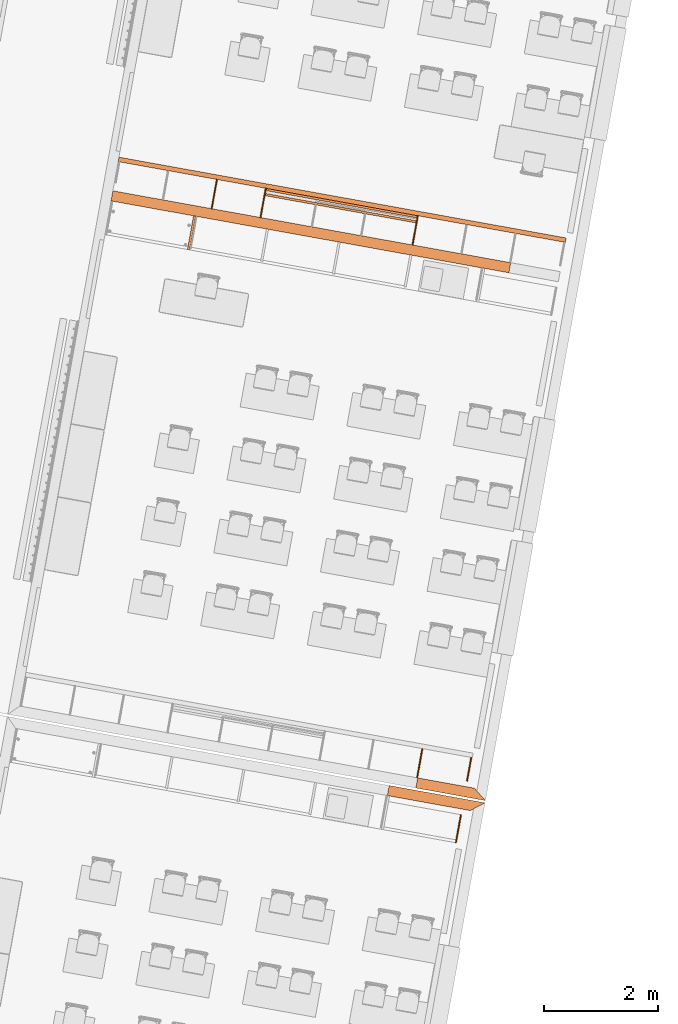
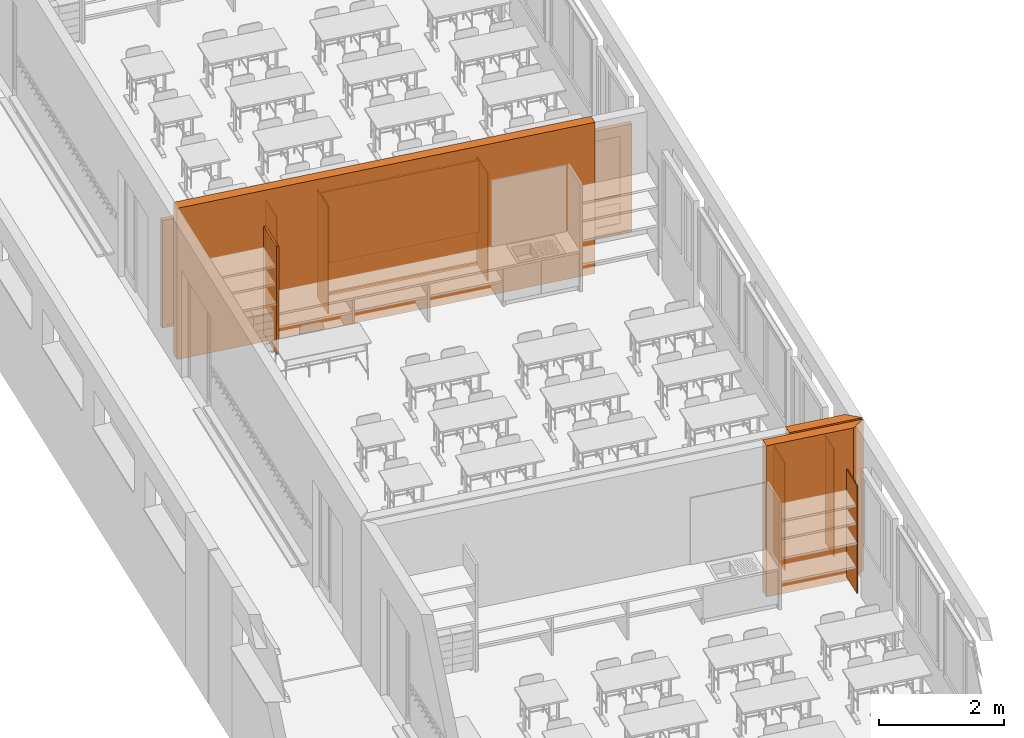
# One storey, part 44 of 79: 13 proxies.
"""IFC2X3 building model written with IfcOpenShell, lengths in metres."""

from ifc_helpers import new_model, entity, si_unit, converted_unit, derived_unit, money_unit, direction, frame, origin_with_axes, place, context, subcontext, project, spatial, polyline, outline, extrude, open_shell, faceted_brep, surface_model, source, transform, mapped, material, type_object, element, save


model = new_model("IFC2X3")

# Units and contexts
model_context = context("Model", 3, precision=1e-05, world=origin_with_axes(), true_north=direction((0.0, 1.0)))
body_context = subcontext(model_context, "Body", "Model", "MODEL_VIEW")
ifc_project = project(units=[si_unit("LENGTHUNIT", "METRE"), si_unit("AREAUNIT", "SQUARE_METRE"), si_unit("VOLUMEUNIT", "CUBIC_METRE"), converted_unit("PLANEANGLEUNIT", "DEGREE", entity("IfcPlaneAngleMeasure", 0.0174532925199), si_unit("PLANEANGLEUNIT", "RADIAN"), dimensions=[0, 0, 0, 0, 0, 0, 0]), money_unit("CHF"), converted_unit("TIMEUNIT", "Year", entity("IfcTimeMeasure", 31556926.0), si_unit("TIMEUNIT", "SECOND"), dimensions=[0, 0, 1, 0, 0, 0, 0]), si_unit("MASSUNIT", "GRAM", prefix="KILO"), si_unit("THERMODYNAMICTEMPERATUREUNIT", "DEGREE_CELSIUS"), si_unit("LUMINOUSINTENSITYUNIT", "LUMEN"), si_unit("ENERGYUNIT", "JOULE", prefix="MEGA"), derived_unit("THERMALCONDUCTANCEUNIT", [(si_unit("POWERUNIT", "WATT"), 1), (si_unit("LENGTHUNIT", "METRE"), -1), (si_unit("THERMODYNAMICTEMPERATUREUNIT", "KELVIN"), -1)]), derived_unit("SPECIFICHEATCAPACITYUNIT", [(si_unit("ENERGYUNIT", "JOULE"), 1), (si_unit("MASSUNIT", "GRAM", prefix="KILO"), -1), (si_unit("THERMODYNAMICTEMPERATUREUNIT", "KELVIN"), -1)]), derived_unit("MASSDENSITYUNIT", [(si_unit("MASSUNIT", "GRAM", prefix="KILO"), 1), (si_unit("VOLUMEUNIT", "CUBIC_METRE"), -1)])], contexts=[model_context])

# Site, building, storey
site_placement = place(None, frame((0.0, 0.0, 0.0), z_axis=(0.0, 0.0, 1.0), x_axis=(-0.177771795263, -0.984071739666, 0.0)))
site = spatial("IfcSite", under=ifc_project, at=site_placement, Name="Site", CompositionType="ELEMENT")
building_placement = place(site_placement, origin_with_axes())
building = spatial("IfcBuilding", under=site, at=building_placement, Name="Bâtiment", CompositionType="ELEMENT")
storey_placement = place(building_placement, origin_with_axes())
storey = spatial("IfcBuildingStorey", under=building, at=storey_placement, Name="RDC", CompositionType="ELEMENT", Elevation=0.0)

# Proxies
ifc_material_1 = material(Name="_BA banché RAL9007")
building_element_proxy_type_1 = type_object("IfcBuildingElementProxyType", Name="_BA banché RAL9007 180", PredefinedType="NOTDEFINED")
proxy_1_placement = place(storey_placement, frame((119.284841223, -156.627151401, -0.15), z_axis=(0.0, 0.0, 1.0), x_axis=(0.0, 1.0, 0.0)))
element("IfcBuildingElementProxy", 1, at=proxy_1_placement, inside=storey, type_object=building_element_proxy_type_1, material=ifc_material_1, Name="M refend", context=body_context, shape_type="SweptSolid", body=[
    extrude(outline(polyline([(0.180000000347, 0.0), (7.26900000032, 0.0), (7.26900000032, 0.18), (0.18000000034, 0.18), (0.180000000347, 0.0)])), origin_with_axes(), (0.0, 0.0, 1.0), 2.95),
])
ifc_material_2 = material(Name="Matériau de construction IFC")
building_element_proxy_type_2 = type_object("IfcBuildingElementProxyType", Name="porte-couliss-triple_JM2", PredefinedType="NOTDEFINED")
shared_shape = source(origin_with_axes(), body_context, "Body", "SurfaceModel", [
    surface_model("IfcShellBasedSurfaceModel", [(7.92, -0.0799999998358, 0.05), (7.92, -0.0799999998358, 2.05), (7.92, 1.64206426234e-10, 2.05), (7.92, 1.64206426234e-10, 0.05), (7.97, -0.0799999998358, 2.05), (7.97, -0.0799999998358, 0.05), (7.97, 1.64206426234e-10, 2.05), (7.97, 1.64206426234e-10, 0.05)], [open_shell([[[0, 1, 2, 3]], [[4, 1, 0, 5]], [[6, 7, 3, 2]]])]),
    surface_model("IfcShellBasedSurfaceModel", [(7.97, -0.0799999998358, 0.0), (7.97, -0.0799999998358, 2.1), (7.97, 1.64206426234e-10, 2.1), (7.97, 1.64206426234e-10, 0.0)], [open_shell([[[0, 1, 2, 3]]])]),
    surface_model("IfcShellBasedSurfaceModel", [(0.05, -0.0799999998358, 0.05), (7.92, -0.0799999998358, 0.05), (7.92, 1.64206426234e-10, 0.05), (0.05, 1.64206426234e-10, 0.05), (7.92, -0.0799999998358, 0.0), (0.05, -0.0799999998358, 0.0), (7.92, 1.64206426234e-10, 0.0), (0.05, 1.64206426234e-10, 0.0)], [open_shell([[[0, 1, 2, 3]], [[4, 1, 0, 5]], [[6, 7, 3, 2]]])]),
    surface_model("IfcShellBasedSurfaceModel", [(7.97, -0.0799999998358, 0.0), (0.0, -0.0799999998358, 0.0), (0.0, 1.64206426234e-10, 0.0), (7.97, 1.64206426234e-10, 0.0)], [open_shell([[[0, 1, 2, 3]]])]),
    surface_model("IfcShellBasedSurfaceModel", [(7.97, -0.0799999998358, 0.0), (7.97, -0.0799999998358, 0.05), (7.92, -0.0799999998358, 0.05), (7.92, -0.0799999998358, 0.0)], [open_shell([[[0, 1, 2, 3]]])]),
    surface_model("IfcShellBasedSurfaceModel", [(7.97, 1.64206426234e-10, 0.0), (7.97, 1.64206426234e-10, 0.05), (7.92, 1.64206426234e-10, 0.05), (7.92, 1.64206426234e-10, 0.0)], [open_shell([[[0, 1, 2, 3]]])]),
    surface_model("IfcShellBasedSurfaceModel", [(0.05, -0.0799999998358, 0.0), (0.05, -0.0799999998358, 0.05), (0.0, -0.0799999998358, 0.05), (0.0, -0.0799999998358, 0.0)], [open_shell([[[0, 1, 2, 3]]])]),
    surface_model("IfcShellBasedSurfaceModel", [(0.05, 1.64206426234e-10, 0.0), (0.05, 1.64206426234e-10, 0.05), (0.0, 1.64206426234e-10, 0.05), (0.0, 1.64206426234e-10, 0.0)], [open_shell([[[0, 1, 2, 3]]])]),
    surface_model("IfcShellBasedSurfaceModel", [(0.05, -0.0799999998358, 2.05), (0.05, -0.0799999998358, 0.05), (0.05, 1.64206426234e-10, 0.05), (0.05, 1.64206426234e-10, 2.05), (0.0, -0.0799999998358, 0.05), (0.0, -0.0799999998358, 2.05), (0.0, 1.64206426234e-10, 0.05), (0.0, 1.64206426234e-10, 2.05)], [open_shell([[[0, 1, 2, 3]], [[4, 1, 0, 5]], [[6, 7, 3, 2]]])]),
    surface_model("IfcShellBasedSurfaceModel", [(0.0, -0.0799999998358, 0.0), (0.0, -0.0799999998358, 2.1), (0.0, 1.64206426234e-10, 2.1), (0.0, 1.64206426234e-10, 0.0)], [open_shell([[[0, 1, 2, 3]]])]),
    surface_model("IfcShellBasedSurfaceModel", [(7.92, -0.0799999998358, 2.05), (0.05, -0.0799999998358, 2.05), (0.05, 1.64206426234e-10, 2.05), (7.92, 1.64206426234e-10, 2.05), (0.05, -0.0799999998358, 2.1), (7.92, -0.0799999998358, 2.1), (0.05, 1.64206426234e-10, 2.1), (7.92, 1.64206426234e-10, 2.1)], [open_shell([[[0, 1, 2, 3]], [[4, 1, 0, 5]], [[6, 7, 3, 2]]])]),
    surface_model("IfcShellBasedSurfaceModel", [(7.97, -0.0799999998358, 2.1), (0.0, -0.0799999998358, 2.1), (0.0, 1.64206426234e-10, 2.1), (7.97, 1.64206426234e-10, 2.1)], [open_shell([[[0, 1, 2, 3]]])]),
    surface_model("IfcShellBasedSurfaceModel", [(7.97, -0.0799999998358, 2.05), (7.97, -0.0799999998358, 2.1), (7.92, -0.0799999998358, 2.1), (7.92, -0.0799999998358, 2.05)], [open_shell([[[0, 1, 2, 3]]])]),
    surface_model("IfcShellBasedSurfaceModel", [(7.97, 1.64206426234e-10, 2.05), (7.97, 1.64206426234e-10, 2.1), (7.92, 1.64206426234e-10, 2.1), (7.92, 1.64206426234e-10, 2.05)], [open_shell([[[0, 1, 2, 3]]])]),
    surface_model("IfcShellBasedSurfaceModel", [(0.05, -0.0799999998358, 2.05), (0.05, -0.0799999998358, 2.1), (0.0, -0.0799999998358, 2.1), (0.0, -0.0799999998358, 2.05)], [open_shell([[[0, 1, 2, 3]]])]),
    surface_model("IfcShellBasedSurfaceModel", [(0.05, 1.64206426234e-10, 2.05), (0.05, 1.64206426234e-10, 2.1), (0.0, 1.64206426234e-10, 2.1), (0.0, 1.64206426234e-10, 2.05)], [open_shell([[[0, 1, 2, 3]]])]),
    surface_model("IfcShellBasedSurfaceModel", [(7.77, -0.0744999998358, 0.2), (7.77, -0.0744999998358, 1.9), (7.77, -0.00449999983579, 1.9), (7.77, -0.00449999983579, 0.2), (7.92, -0.0744999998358, 1.9), (7.92, -0.0744999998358, 0.2), (7.92, -0.00449999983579, 1.9), (7.92, -0.00449999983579, 0.2)], [open_shell([[[0, 1, 2, 3]], [[4, 1, 0, 5]], [[6, 7, 3, 2]]])]),
    surface_model("IfcShellBasedSurfaceModel", [(7.92, -0.0744999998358, 0.05), (7.92, -0.0744999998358, 2.05), (7.92, -0.00449999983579, 2.05), (7.92, -0.00449999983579, 0.05)], [open_shell([[[0, 1, 2, 3]]])]),
    surface_model("IfcShellBasedSurfaceModel", [(5.48, -0.0744999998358, 0.2), (7.77, -0.0744999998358, 0.2), (7.77, -0.00449999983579, 0.2), (5.48, -0.00449999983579, 0.2), (7.77, -0.0744999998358, 0.05), (5.48, -0.0744999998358, 0.05), (7.77, -0.00449999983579, 0.05), (5.48, -0.00449999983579, 0.05)], [open_shell([[[0, 1, 2, 3]], [[4, 1, 0, 5]], [[6, 7, 3, 2]]])]),
    surface_model("IfcShellBasedSurfaceModel", [(7.92, -0.0744999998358, 0.05), (5.33, -0.0744999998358, 0.05), (5.33, -0.00449999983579, 0.05), (7.92, -0.00449999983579, 0.05)], [open_shell([[[0, 1, 2, 3]]])]),
    surface_model("IfcShellBasedSurfaceModel", [(7.92, -0.0744999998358, 0.05), (7.92, -0.0744999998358, 0.2), (7.77, -0.0744999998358, 0.2), (7.77, -0.0744999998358, 0.05)], [open_shell([[[0, 1, 2, 3]]])]),
    surface_model("IfcShellBasedSurfaceModel", [(7.92, -0.00449999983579, 0.05), (7.92, -0.00449999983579, 0.2), (7.77, -0.00449999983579, 0.2), (7.77, -0.00449999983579, 0.05)], [open_shell([[[0, 1, 2, 3]]])]),
    surface_model("IfcShellBasedSurfaceModel", [(5.48, -0.0744999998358, 0.05), (5.48, -0.0744999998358, 0.2), (5.33, -0.0744999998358, 0.2), (5.33, -0.0744999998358, 0.05)], [open_shell([[[0, 1, 2, 3]]])]),
    surface_model("IfcShellBasedSurfaceModel", [(5.48, -0.00449999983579, 0.05), (5.48, -0.00449999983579, 0.2), (5.33, -0.00449999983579, 0.2), (5.33, -0.00449999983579, 0.05)], [open_shell([[[0, 1, 2, 3]]])]),
    surface_model("IfcShellBasedSurfaceModel", [(5.48, -0.0744999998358, 1.9), (5.48, -0.0744999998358, 0.2), (5.48, -0.00449999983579, 0.2), (5.48, -0.00449999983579, 1.9), (5.33, -0.0744999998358, 0.2), (5.33, -0.0744999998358, 1.9), (5.33, -0.00449999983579, 0.2), (5.33, -0.00449999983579, 1.9)], [open_shell([[[0, 1, 2, 3]], [[4, 1, 0, 5]], [[6, 7, 3, 2]]])]),
    surface_model("IfcShellBasedSurfaceModel", [(5.33, -0.0744999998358, 0.05), (5.33, -0.0744999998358, 2.05), (5.33, -0.00449999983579, 2.05), (5.33, -0.00449999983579, 0.05)], [open_shell([[[0, 1, 2, 3]]])]),
    surface_model("IfcShellBasedSurfaceModel", [(7.77, -0.0744999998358, 1.9), (5.48, -0.0744999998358, 1.9), (5.48, -0.00449999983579, 1.9), (7.77, -0.00449999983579, 1.9), (5.48, -0.0744999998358, 2.05), (7.77, -0.0744999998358, 2.05), (5.48, -0.00449999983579, 2.05), (7.77, -0.00449999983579, 2.05)], [open_shell([[[0, 1, 2, 3]], [[4, 1, 0, 5]], [[6, 7, 3, 2]]])]),
    surface_model("IfcShellBasedSurfaceModel", [(7.92, -0.0744999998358, 2.05), (5.33, -0.0744999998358, 2.05), (5.33, -0.00449999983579, 2.05), (7.92, -0.00449999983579, 2.05)], [open_shell([[[0, 1, 2, 3]]])]),
    surface_model("IfcShellBasedSurfaceModel", [(7.92, -0.0744999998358, 1.9), (7.92, -0.0744999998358, 2.05), (7.77, -0.0744999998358, 2.05), (7.77, -0.0744999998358, 1.9)], [open_shell([[[0, 1, 2, 3]]])]),
    surface_model("IfcShellBasedSurfaceModel", [(7.92, -0.00449999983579, 1.9), (7.92, -0.00449999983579, 2.05), (7.77, -0.00449999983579, 2.05), (7.77, -0.00449999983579, 1.9)], [open_shell([[[0, 1, 2, 3]]])]),
    surface_model("IfcShellBasedSurfaceModel", [(5.48, -0.0744999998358, 1.9), (5.48, -0.0744999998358, 2.05), (5.33, -0.0744999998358, 2.05), (5.33, -0.0744999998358, 1.9)], [open_shell([[[0, 1, 2, 3]]])]),
    surface_model("IfcShellBasedSurfaceModel", [(5.48, -0.00449999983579, 1.9), (5.48, -0.00449999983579, 2.05), (5.33, -0.00449999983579, 2.05), (5.33, -0.00449999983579, 1.9)], [open_shell([[[0, 1, 2, 3]]])]),
    faceted_brep([(5.48, -0.0194999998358, 0.2), (7.77, -0.0194999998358, 0.2), (7.77, -0.0594999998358, 0.2), (5.48, -0.0594999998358, 0.2), (5.48, -0.0194999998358, 0.6), (7.77, -0.0194999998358, 0.6), (7.77, -0.0594999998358, 0.6), (5.48, -0.0594999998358, 0.6)], [[[0, 1, 2, 3]], [[1, 0, 4, 5]], [[2, 1, 5, 6]], [[3, 2, 6, 7]], [[0, 3, 7, 4]], [[5, 4, 7, 6]]]),
    faceted_brep([(5.48, -0.00449999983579, 0.6), (7.77, -0.00449999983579, 0.6), (7.77, -0.0744999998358, 0.6), (5.48, -0.0744999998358, 0.6), (5.48, -0.00449999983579, 0.75), (7.77, -0.00449999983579, 0.75), (7.77, -0.0744999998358, 0.75), (5.48, -0.0744999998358, 0.75)], [[[0, 1, 2, 3]], [[1, 0, 4, 5]], [[2, 1, 5, 6]], [[3, 2, 6, 7]], [[0, 3, 7, 4]], [[5, 4, 7, 6]]]),
    faceted_brep([(5.48, -0.0194999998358, 0.75), (7.77, -0.0194999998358, 0.75), (7.77, -0.0594999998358, 0.75), (5.48, -0.0594999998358, 0.75), (5.48, -0.0194999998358, 1.9), (7.77, -0.0194999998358, 1.9), (7.77, -0.0594999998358, 1.9), (5.48, -0.0594999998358, 1.9)], [[[0, 1, 2, 3]], [[1, 0, 4, 5]], [[2, 1, 5, 6]], [[3, 2, 6, 7]], [[0, 3, 7, 4]], [[5, 4, 7, 6]]]),
    surface_model("IfcShellBasedSurfaceModel", [(2.49, -0.0744999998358, 0.2), (2.49, -0.0744999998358, 1.9), (2.49, -0.00449999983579, 1.9), (2.49, -0.00449999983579, 0.2), (2.64, -0.0744999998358, 1.9), (2.64, -0.0744999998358, 0.2), (2.64, -0.00449999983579, 1.9), (2.64, -0.00449999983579, 0.2)], [open_shell([[[0, 1, 2, 3]], [[4, 1, 0, 5]], [[6, 7, 3, 2]]])]),
    surface_model("IfcShellBasedSurfaceModel", [(2.64, -0.0744999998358, 0.05), (2.64, -0.0744999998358, 2.05), (2.64, -0.00449999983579, 2.05), (2.64, -0.00449999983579, 0.05)], [open_shell([[[0, 1, 2, 3]]])]),
    surface_model("IfcShellBasedSurfaceModel", [(0.2, -0.0744999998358, 0.2), (2.49, -0.0744999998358, 0.2), (2.49, -0.00449999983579, 0.2), (0.2, -0.00449999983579, 0.2), (2.49, -0.0744999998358, 0.05), (0.2, -0.0744999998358, 0.05), (2.49, -0.00449999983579, 0.05), (0.2, -0.00449999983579, 0.05)], [open_shell([[[0, 1, 2, 3]], [[4, 1, 0, 5]], [[6, 7, 3, 2]]])]),
    surface_model("IfcShellBasedSurfaceModel", [(2.64, -0.0744999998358, 0.05), (0.05, -0.0744999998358, 0.05), (0.05, -0.00449999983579, 0.05), (2.64, -0.00449999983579, 0.05)], [open_shell([[[0, 1, 2, 3]]])]),
    surface_model("IfcShellBasedSurfaceModel", [(2.64, -0.0744999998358, 0.05), (2.64, -0.0744999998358, 0.2), (2.49, -0.0744999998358, 0.2), (2.49, -0.0744999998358, 0.05)], [open_shell([[[0, 1, 2, 3]]])]),
    surface_model("IfcShellBasedSurfaceModel", [(2.64, -0.00449999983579, 0.05), (2.64, -0.00449999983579, 0.2), (2.49, -0.00449999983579, 0.2), (2.49, -0.00449999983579, 0.05)], [open_shell([[[0, 1, 2, 3]]])]),
    surface_model("IfcShellBasedSurfaceModel", [(0.2, -0.0744999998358, 0.05), (0.2, -0.0744999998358, 0.2), (0.05, -0.0744999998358, 0.2), (0.05, -0.0744999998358, 0.05)], [open_shell([[[0, 1, 2, 3]]])]),
    surface_model("IfcShellBasedSurfaceModel", [(0.2, -0.00449999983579, 0.05), (0.2, -0.00449999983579, 0.2), (0.05, -0.00449999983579, 0.2), (0.05, -0.00449999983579, 0.05)], [open_shell([[[0, 1, 2, 3]]])]),
    surface_model("IfcShellBasedSurfaceModel", [(0.2, -0.0744999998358, 1.9), (0.2, -0.0744999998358, 0.2), (0.2, -0.00449999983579, 0.2), (0.2, -0.00449999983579, 1.9), (0.05, -0.0744999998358, 0.2), (0.05, -0.0744999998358, 1.9), (0.05, -0.00449999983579, 0.2), (0.05, -0.00449999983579, 1.9)], [open_shell([[[0, 1, 2, 3]], [[4, 1, 0, 5]], [[6, 7, 3, 2]]])]),
    surface_model("IfcShellBasedSurfaceModel", [(0.05, -0.0744999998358, 0.05), (0.05, -0.0744999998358, 2.05), (0.05, -0.00449999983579, 2.05), (0.05, -0.00449999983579, 0.05)], [open_shell([[[0, 1, 2, 3]]])]),
    surface_model("IfcShellBasedSurfaceModel", [(2.49, -0.0744999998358, 1.9), (0.2, -0.0744999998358, 1.9), (0.2, -0.00449999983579, 1.9), (2.49, -0.00449999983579, 1.9), (0.2, -0.0744999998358, 2.05), (2.49, -0.0744999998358, 2.05), (0.2, -0.00449999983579, 2.05), (2.49, -0.00449999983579, 2.05)], [open_shell([[[0, 1, 2, 3]], [[4, 1, 0, 5]], [[6, 7, 3, 2]]])]),
    surface_model("IfcShellBasedSurfaceModel", [(2.64, -0.0744999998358, 2.05), (0.05, -0.0744999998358, 2.05), (0.05, -0.00449999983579, 2.05), (2.64, -0.00449999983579, 2.05)], [open_shell([[[0, 1, 2, 3]]])]),
    surface_model("IfcShellBasedSurfaceModel", [(2.64, -0.0744999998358, 1.9), (2.64, -0.0744999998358, 2.05), (2.49, -0.0744999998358, 2.05), (2.49, -0.0744999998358, 1.9)], [open_shell([[[0, 1, 2, 3]]])]),
    surface_model("IfcShellBasedSurfaceModel", [(2.64, -0.00449999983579, 1.9), (2.64, -0.00449999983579, 2.05), (2.49, -0.00449999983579, 2.05), (2.49, -0.00449999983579, 1.9)], [open_shell([[[0, 1, 2, 3]]])]),
    surface_model("IfcShellBasedSurfaceModel", [(0.2, -0.0744999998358, 1.9), (0.2, -0.0744999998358, 2.05), (0.05, -0.0744999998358, 2.05), (0.05, -0.0744999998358, 1.9)], [open_shell([[[0, 1, 2, 3]]])]),
    surface_model("IfcShellBasedSurfaceModel", [(0.2, -0.00449999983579, 1.9), (0.2, -0.00449999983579, 2.05), (0.05, -0.00449999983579, 2.05), (0.05, -0.00449999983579, 1.9)], [open_shell([[[0, 1, 2, 3]]])]),
    faceted_brep([(0.2, -0.0194999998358, 0.2), (2.49, -0.0194999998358, 0.2), (2.49, -0.0594999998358, 0.2), (0.2, -0.0594999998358, 0.2), (0.2, -0.0194999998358, 0.6), (2.49, -0.0194999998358, 0.6), (2.49, -0.0594999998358, 0.6), (0.2, -0.0594999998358, 0.6)], [[[0, 1, 2, 3]], [[1, 0, 4, 5]], [[2, 1, 5, 6]], [[3, 2, 6, 7]], [[0, 3, 7, 4]], [[5, 4, 7, 6]]]),
    faceted_brep([(0.2, -0.00449999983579, 0.6), (2.49, -0.00449999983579, 0.6), (2.49, -0.0744999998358, 0.6), (0.2, -0.0744999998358, 0.6), (0.2, -0.00449999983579, 0.75), (2.49, -0.00449999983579, 0.75), (2.49, -0.0744999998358, 0.75), (0.2, -0.0744999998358, 0.75)], [[[0, 1, 2, 3]], [[1, 0, 4, 5]], [[2, 1, 5, 6]], [[3, 2, 6, 7]], [[0, 3, 7, 4]], [[5, 4, 7, 6]]]),
    faceted_brep([(0.2, -0.0194999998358, 0.75), (2.49, -0.0194999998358, 0.75), (2.49, -0.0594999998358, 0.75), (0.2, -0.0594999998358, 0.75), (0.2, -0.0194999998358, 1.9), (2.49, -0.0194999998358, 1.9), (2.49, -0.0594999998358, 1.9), (0.2, -0.0594999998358, 1.9)], [[[0, 1, 2, 3]], [[1, 0, 4, 5]], [[2, 1, 5, 6]], [[3, 2, 6, 7]], [[0, 3, 7, 4]], [[5, 4, 7, 6]]]),
])
proxy_2_placement = place(storey_placement, frame((118.50484124, -156.447151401, 0.0), z_axis=(0.0, 0.0, 1.0), x_axis=(0.0, 1.0, 0.0)))
element("IfcBuildingElementProxy", 2, at=proxy_2_placement, inside=storey, type_object=building_element_proxy_type_2, material=ifc_material_2, Name="coulissant-classe", context=body_context, shape_type="MappedRepresentation", body=[
    mapped(shared_shape, transform((0.0, 0.0, 0.0))),
])
ifc_material_3 = material(Name="_panneau mélaminé")
building_element_proxy_type_3 = type_object("IfcBuildingElementProxyType", Name="_panneau mélaminé 40", PredefinedType="NOTDEFINED")
proxy_3_placement = place(storey_placement, frame((118.674841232, -151.107651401, 0.7), z_axis=(0.0, 0.0, 1.0), x_axis=(0.0, -1.0, 0.0)))
element("IfcBuildingElementProxy", 3, at=proxy_3_placement, inside=storey, type_object=building_element_proxy_type_3, material=ifc_material_3, Name="tableau-classe", context=body_context, shape_type="SweptSolid", body=[
    extrude(outline(polyline([(0.0095, 0.0), (2.6995, 0.0), (2.6995, 0.04), (0.0095, 0.04), (0.0095, 0.0)])), origin_with_axes(), (0.0, 0.0, 1.0), 1.4),
])
proxy_4_placement = place(storey_placement, frame((119.884841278, -154.978236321, 0.0), z_axis=(0.0, 0.0, 1.0), x_axis=(-1.0, 0.0, 0.0)))
element("IfcBuildingElementProxy", 4, at=proxy_4_placement, inside=storey, type_object=building_element_proxy_type_3, material=ifc_material_3, Name="cloison-fd-classe G", context=body_context, shape_type="SweptSolid", body=[
    extrude(outline(polyline([(0.0, -0.04), (0.600000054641, -0.04), (0.600000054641, 0.0), (0.0, 0.0), (0.0, -0.04)])), origin_with_axes(), (0.0, 0.0, 1.0), 2.1),
])
building_element_proxy_type_4 = type_object("IfcBuildingElementProxyType", Name="_panneau mélaminé 19", PredefinedType="NOTDEFINED")
proxy_5_placement = place(storey_placement, frame((119.104841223, -153.816651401, 0.0), z_axis=(0.0, 0.0, 1.0), x_axis=(-1.0, 0.0, 0.0)))
element("IfcBuildingElementProxy", 5, at=proxy_5_placement, inside=storey, type_object=building_element_proxy_type_4, material=ifc_material_3, Name="cloison pl-classe", context=body_context, shape_type="SweptSolid", body=[
    extrude(outline(polyline([(0.0, -0.0095), (0.519999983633, -0.0095), (0.519999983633, 0.0095), (0.0, 0.0095), (0.0, -0.0095)])), origin_with_axes(), (0.0, 0.0, 1.0), 2.1),
])
proxy_6_placement = place(storey_placement, frame((119.104841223, -154.686651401, 0.0), z_axis=(0.0, 0.0, 1.0), x_axis=(-1.0, 0.0, 0.0)))
element("IfcBuildingElementProxy", 6, at=proxy_6_placement, inside=storey, type_object=building_element_proxy_type_4, material=ifc_material_3, Name="cloison pl-classe", context=body_context, shape_type="SweptSolid", body=[
    extrude(outline(polyline([(0.0, -0.0095), (0.519999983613, -0.0095), (0.519999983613, 0.0095), (0.0, 0.0095), (0.0, -0.0095)])), origin_with_axes(), (0.0, 0.0, 1.0), 2.1),
])
proxy_7_placement = place(storey_placement, frame((119.104841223, -151.107651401, 0.0), z_axis=(0.0, 0.0, 1.0), x_axis=(-1.0, 0.0, 0.0)))
element("IfcBuildingElementProxy", 7, at=proxy_7_placement, inside=storey, type_object=building_element_proxy_type_4, material=ifc_material_3, Name="cloison pl-classe", context=body_context, shape_type="SweptSolid", body=[
    extrude(outline(polyline([(0.0, -0.0095), (0.519999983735, -0.0095), (0.519999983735, 0.0095), (0.0, 0.0095), (0.0, -0.0095)])), origin_with_axes(), (0.0, 0.0, 1.0), 2.1),
])
proxy_8_placement = place(storey_placement, frame((129.284841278, -148.506151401, 0.0), z_axis=(0.0, 0.0, 1.0), x_axis=(-1.0, 0.0, 0.0)))
element("IfcBuildingElementProxy", 8, at=proxy_8_placement, inside=storey, type_object=building_element_proxy_type_4, material=ifc_material_3, Name="cloison-fd-classe D", context=body_context, shape_type="SweptSolid", body=[
    extrude(outline(polyline([(0.0, -0.019), (0.500000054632, -0.019), (0.500000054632, 0.0), (0.0, 0.0), (0.0, -0.019)])), origin_with_axes(), (0.0, 0.0, 1.0), 2.1),
])
proxy_9_placement = place(storey_placement, frame((128.28484124, -149.367651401, 0.0), z_axis=(0.0, 0.0, 1.0), x_axis=(-1.0, 0.0, 0.0)))
element("IfcBuildingElementProxy", 9, at=proxy_9_placement, inside=storey, type_object=building_element_proxy_type_4, material=ifc_material_3, Name="cloison pl-classe", context=body_context, shape_type="SweptSolid", body=[
    extrude(outline(polyline([(0.0, -0.0095), (0.519999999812, -0.0095), (0.519999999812, 0.0095), (0.0, 0.0095), (0.0, -0.0095)])), origin_with_axes(), (0.0, 0.0, 1.0), 2.1),
])
proxy_10_placement = place(storey_placement, frame((128.184841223, -148.506151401, 0.0), z_axis=(0.0, 0.0, 1.0), x_axis=(-1.0, 0.0, 0.0)))
element("IfcBuildingElementProxy", 10, at=proxy_10_placement, inside=storey, type_object=building_element_proxy_type_4, material=ifc_material_3, Name="cloison pl-classe", context=body_context, shape_type="SweptSolid", body=[
    extrude(outline(polyline([(0.0, -0.019), (0.419999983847, -0.019), (0.419999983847, 0.0), (0.0, 0.0), (0.0, -0.019)])), origin_with_axes(), (0.0, 0.0, 1.0), 2.1),
])
building_element_proxy_type_5 = type_object("IfcBuildingElementProxyType", Name="_M ext 18 +10 gris 280", PredefinedType="NOTDEFINED")
proxy_11_placement = place(storey_placement, frame((128.464841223, -149.358151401, -0.15), z_axis=(0.0, 0.0, 1.0), x_axis=(0.0, 1.0, 0.0)))
element("IfcBuildingElementProxy", 11, at=proxy_11_placement, inside=storey, type_object=building_element_proxy_type_5, material=ifc_material_1, Name="M retour_isol", context=body_context, shape_type="SweptSolid", body=[
    extrude(outline(polyline([(0.0, 0.0), (1.24100000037, 0.0), (1.00957142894, 0.18), (0.0, 0.18), (0.0, 0.0)])), origin_with_axes(), (0.0, 0.0, 1.0), 2.95),
])
proxy_12_placement = place(storey_placement, frame((128.504841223, -149.826151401, -0.15), z_axis=(0.0, 0.0, 1.0), x_axis=(0.0, 1.0, 0.0)))
element("IfcBuildingElementProxy", 12, at=proxy_12_placement, inside=storey, type_object=building_element_proxy_type_5, material=ifc_material_1, Name="M retour_isol", context=body_context, shape_type="SweptSolid", body=[
    extrude(outline(polyline([(0.0, -0.18), (1.47757144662, -0.18), (1.70900000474, 0.0), (0.0, 0.0), (0.0, -0.18)])), origin_with_axes(), (0.0, 0.0, 1.0), 2.95),
])
ifc_material_4 = material(Name="_Bois contreplaqué")
building_element_proxy_type_6 = type_object("IfcBuildingElementProxyType", Name="_Bois contreplaqué 50", PredefinedType="NOTDEFINED")
proxy_13_placement = place(storey_placement, frame((118.584841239, -153.807151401, 0.05), z_axis=(0.0, 0.0, 1.0), x_axis=(1.0, 0.0, 0.0)))
element("IfcBuildingElementProxy", 13, at=proxy_13_placement, inside=storey, type_object=building_element_proxy_type_6, material=ifc_material_4, Name="socle-tableau-classe", context=body_context, shape_type="SweptSolid", body=[
    extrude(outline(polyline([(0.0, 0.0), (0.0399999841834, 0.0), (0.0399999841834, 2.69), (0.0, 2.69), (0.0, 0.0)])), frame((0.0, 0.0, -0.05), z_axis=(0.0, 0.0, 1.0), x_axis=(1.0, 0.0, 0.0)), (0.0, 0.0, 1.0), 0.05),
])

save(model, "model.ifc")
